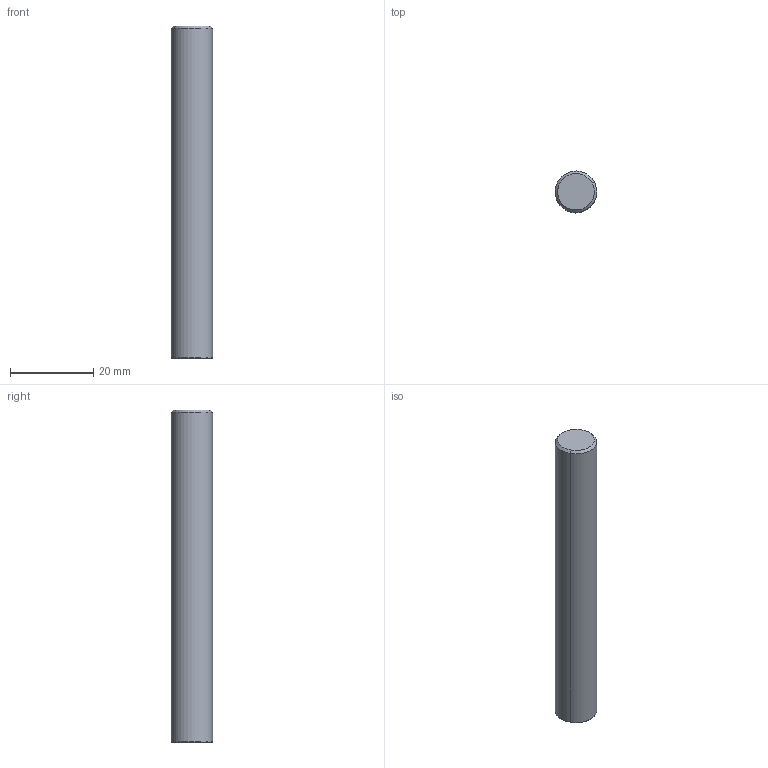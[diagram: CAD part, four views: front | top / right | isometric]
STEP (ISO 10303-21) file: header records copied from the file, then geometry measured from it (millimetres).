
FILE_DESCRIPTION(('CATIA V5 STEP Exchange'),'2;1');
FILE_NAME('I:\isr\design\admin8\users\farid_a\3105651.stp','2012-04-29T06:33:13+00:00',('none'),('none'),'CATIA Version 5 Release 19 SP 7 (IN-10)','CATIA V5 STEP AP214','none');
FILE_SCHEMA(('AUTOMOTIVE_DESIGN { 1 0 10303 214 1 1 1 1 }'));
Length unit declared in the file: millimetre
Products named in the file (1): 60953955_0  MM TS-A-L080-C10-T06-H
Bounding box: 10 x 10 x 80 mm (x, y, z)
Volume: 6277.6 mm3; surface area: 2656.9 mm2
Topology: 1 solids, 1 shells, 8 faces, 14 edges, 8 vertices
Faces by surface type: cone 4, cylinder 2, plane 2
Entity records: 207 total; most frequent: CARTESIAN_POINT 31, DIRECTION 30, ORIENTED_EDGE 28, AXIS2_PLACEMENT_3D 17, EDGE_CURVE 14, ADVANCED_FACE 8, CIRCLE 8, EDGE_LOOP 8
